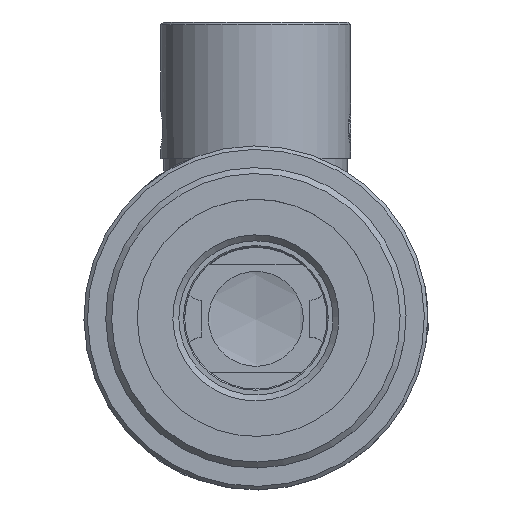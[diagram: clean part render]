
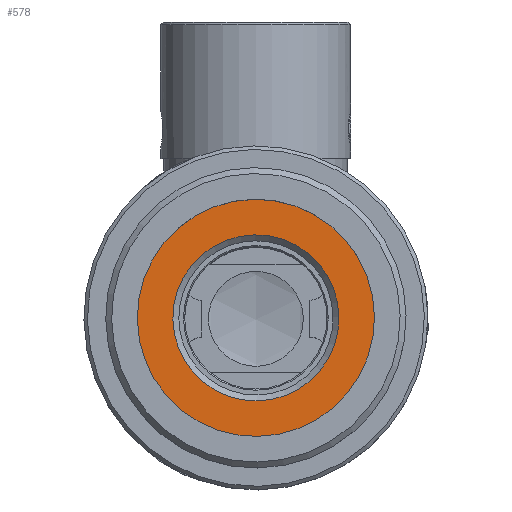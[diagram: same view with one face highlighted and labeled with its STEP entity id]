
A CAD part, top view. The second image highlights one B-rep face of the part: STEP entity #578.
In plain terms, the highlighted planar face has unit normal (0, 0, 1).
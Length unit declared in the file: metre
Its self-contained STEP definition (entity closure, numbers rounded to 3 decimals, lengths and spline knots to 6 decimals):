
#578=ADVANCED_FACE('NONE',(#1450,#1451),#1452,.F.);
#1450=FACE_BOUND('',#2660,.T.);
#1451=FACE_OUTER_BOUND('',#2661,.T.);
#1452=PLANE('',#2662);
#2660=EDGE_LOOP('',(#4316));
#2661=EDGE_LOOP('',(#4317));
#2662=AXIS2_PLACEMENT_3D('',#4318,#4319,#4320);
#4316=ORIENTED_EDGE('',*,*,#6538,.T.);
#4317=ORIENTED_EDGE('',*,*,#6539,.F.);
#4318=CARTESIAN_POINT('',(-0.021802,0.00735,0.040999));
#4319=DIRECTION('',(0.,0.,-1.0));
#4320=DIRECTION('',(-1.0,0.0,0.));
#6538=EDGE_CURVE('NONE',#7717,#7717,#7718,.T.);
#6539=EDGE_CURVE('NONE',#7719,#7719,#7720,.T.);
#7717=VERTEX_POINT('',#9542);
#7718=CIRCLE('',#9543,0.007);
#7719=VERTEX_POINT('',#9544);
#7720=CIRCLE('',#9545,0.01);
#9542=CARTESIAN_POINT('',(-0.032792,0.002037,0.040999));
#9543=AXIS2_PLACEMENT_3D('',#11535,#11536,#11537);
#9544=CARTESIAN_POINT('',(-0.03541,0.003501,0.040999));
#9545=AXIS2_PLACEMENT_3D('',#11538,#11539,#11540);
#11535=CARTESIAN_POINT('',(-0.026682,-0.001379,0.040999));
#11536=DIRECTION('',(0.,0.,-1.0));
#11537=DIRECTION('',(-0.873,0.488,0.));
#11538=CARTESIAN_POINT('',(-0.026682,-0.001379,0.040999));
#11539=DIRECTION('',(0.,0.,-1.0));
#11540=DIRECTION('',(-0.873,0.488,0.));
